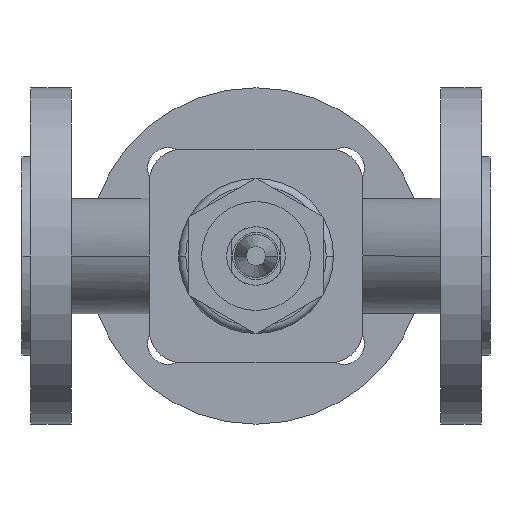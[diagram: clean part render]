
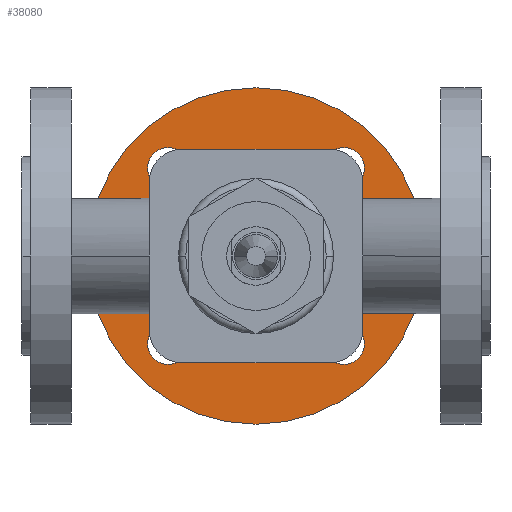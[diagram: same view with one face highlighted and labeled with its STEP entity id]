
A CAD part, front view. The second image highlights one B-rep face of the part: STEP entity #38080.
In plain terms, the highlighted planar face has unit normal (0, -1, 0).
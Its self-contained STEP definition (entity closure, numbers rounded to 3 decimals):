
#1040=CARTESIAN_POINT('',(106.5,58.14,0.));
#1050=VERTEX_POINT('',#1040);
#1080=CARTESIAN_POINT('',(80.,58.14,0.));
#1090=DIRECTION('',(0.,-1.,0.));
#1100=DIRECTION('',(-1.,0.,0.));
#1110=AXIS2_PLACEMENT_3D('',#1080,#1090,#1100);
#1120=CIRCLE('',#1110,26.5);
#1130=CARTESIAN_POINT('',(53.5,58.14,0.));
#1140=VERTEX_POINT('',#1130);
#1150=EDGE_CURVE('',#1140,#1050,#1120,.T.);
#1960=CARTESIAN_POINT('',(22.5,58.14,0.));
#1970=VERTEX_POINT('',#1960);
#2020=CARTESIAN_POINT('',(80.,58.14,0.));
#2030=DIRECTION('',(0.,1.,0.));
#2040=DIRECTION('',(1.,0.,0.));
#2050=AXIS2_PLACEMENT_3D('',#2020,#2030,#2040);
#2060=CIRCLE('',#2050,57.5);
#2070=CARTESIAN_POINT('',(137.5,58.14,0.));
#2080=VERTEX_POINT('',#2070);
#2090=EDGE_CURVE('',#2080,#1970,#2060,.T.);
#2450=CARTESIAN_POINT('',(103.052,58.14,-30.052));
#2460=VERTEX_POINT('',#2450);
#2510=CARTESIAN_POINT('',(110.052,58.14,-30.052));
#2520=DIRECTION('',(0.,-1.,0.));
#2530=DIRECTION('',(1.,0.,0.));
#2540=AXIS2_PLACEMENT_3D('',#2510,#2520,#2530);
#2550=CIRCLE('',#2540,7.);
#2560=CARTESIAN_POINT('',(117.052,58.14,-30.052));
#2570=VERTEX_POINT('',#2560);
#2580=EDGE_CURVE('',#2570,#2460,#2550,.T.);
#2940=CARTESIAN_POINT('',(103.052,58.14,30.052));
#2950=VERTEX_POINT('',#2940);
#3000=CARTESIAN_POINT('',(110.052,58.14,30.052));
#3010=DIRECTION('',(0.,-1.,0.));
#3020=DIRECTION('',(1.,0.,0.));
#3030=AXIS2_PLACEMENT_3D('',#3000,#3010,#3020);
#3040=CIRCLE('',#3030,7.);
#3050=CARTESIAN_POINT('',(117.052,58.14,30.052));
#3060=VERTEX_POINT('',#3050);
#3070=EDGE_CURVE('',#3060,#2950,#3040,.T.);
#3430=CARTESIAN_POINT('',(42.948,58.14,-30.052));
#3440=VERTEX_POINT('',#3430);
#3490=CARTESIAN_POINT('',(49.948,58.14,-30.052));
#3500=DIRECTION('',(0.,-1.,0.));
#3510=DIRECTION('',(1.,0.,0.));
#3520=AXIS2_PLACEMENT_3D('',#3490,#3500,#3510);
#3530=CIRCLE('',#3520,7.);
#3540=CARTESIAN_POINT('',(56.948,58.14,-30.052));
#3550=VERTEX_POINT('',#3540);
#3560=EDGE_CURVE('',#3550,#3440,#3530,.T.);
#3920=CARTESIAN_POINT('',(56.948,58.14,30.052));
#3930=VERTEX_POINT('',#3920);
#4110=CARTESIAN_POINT('',(42.948,58.14,30.052));
#4120=VERTEX_POINT('',#4110);
#4150=CARTESIAN_POINT('',(49.948,58.14,30.052));
#4160=DIRECTION('',(0.,-1.,0.));
#4170=DIRECTION('',(1.,0.,0.));
#4180=AXIS2_PLACEMENT_3D('',#4150,#4160,#4170);
#4190=CIRCLE('',#4180,7.);
#4200=EDGE_CURVE('',#3930,#4120,#4190,.T.);
#37730=CARTESIAN_POINT('',(49.75,58.14,0.));
#37740=DIRECTION('',(0.,-1.,0.));
#37750=DIRECTION('',(-1.,0.,0.));
#37760=AXIS2_PLACEMENT_3D('',#37730,#37740,#37750);
#37770=PLANE('',#37760);
#37780=ORIENTED_EDGE('',*,*,#2090,.F.);
#37790=EDGE_CURVE('',#1970,#2080,#2060,.T.);
#37800=ORIENTED_EDGE('',*,*,#37790,.F.);
#37810=EDGE_LOOP('',(#37800,#37780));
#37820=FACE_OUTER_BOUND('',#37810,.T.);
#37830=EDGE_CURVE('',#2460,#2570,#2550,.T.);
#37840=ORIENTED_EDGE('',*,*,#37830,.F.);
#37850=ORIENTED_EDGE('',*,*,#2580,.F.);
#37860=EDGE_LOOP('',(#37850,#37840));
#37870=FACE_BOUND('',#37860,.T.);
#37880=ORIENTED_EDGE('',*,*,#3070,.F.);
#37890=EDGE_CURVE('',#2950,#3060,#3040,.T.);
#37900=ORIENTED_EDGE('',*,*,#37890,.F.);
#37910=EDGE_LOOP('',(#37900,#37880));
#37920=FACE_BOUND('',#37910,.T.);
#37930=ORIENTED_EDGE('',*,*,#3560,.F.);
#37940=EDGE_CURVE('',#3440,#3550,#3530,.T.);
#37950=ORIENTED_EDGE('',*,*,#37940,.F.);
#37960=EDGE_LOOP('',(#37950,#37930));
#37970=FACE_BOUND('',#37960,.T.);
#37980=EDGE_CURVE('',#4120,#3930,#4190,.T.);
#37990=ORIENTED_EDGE('',*,*,#37980,.F.);
#38000=ORIENTED_EDGE('',*,*,#4200,.F.);
#38010=EDGE_LOOP('',(#38000,#37990));
#38020=FACE_BOUND('',#38010,.T.);
#38030=EDGE_CURVE('',#1050,#1140,#1120,.T.);
#38040=ORIENTED_EDGE('',*,*,#38030,.F.);
#38050=ORIENTED_EDGE('',*,*,#1150,.F.);
#38060=EDGE_LOOP('',(#38050,#38040));
#38070=FACE_BOUND('',#38060,.T.);
#38080=ADVANCED_FACE('',(#37820,#37870,#37920,#37970,#38020,#38070),
#37770,.T.);
